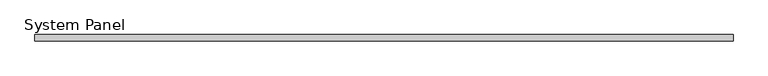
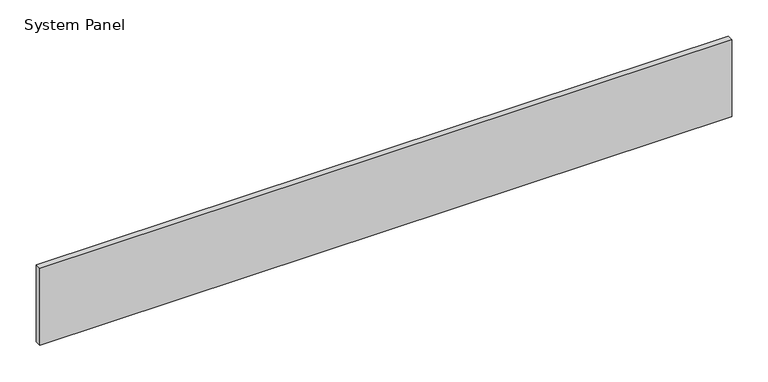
"""IFC4 building model written with IfcOpenShell, lengths in millimetres: plate geometry, System Panel : VACÍO."""

import ifcopenshell
import ifcopenshell.guid

model = None  # the IFC model being written
_history = None  # IfcOwnerHistory: only IFC2X3 demands one
_inside = {}  # id of a spatial element -> (the spatial element, [elements in it])
_under = {}  # id of a project, library or spatial element -> (it, [spatial elements below it])
_declared = {}  # id of a project -> (the project, [libraries it declares])
_typed = {}  # id of a type object -> (the type object, [elements of that type])
_made_of = {}  # id of a material, layer set ... -> (it, [elements and type objects made of it])


def new_model(schema):
    """Start an empty IFC model of exactly this schema.

    Asked for "IFC4X3", IfcOpenShell would pick the latest addendum, in which some entities
    have other attributes; the version numbers below select the first issue.
    IFC2X3 requires an IfcOwnerHistory on every rooted entity: one is made here for all.
    """
    global model, _history
    if schema == "IFC4X3":
        model = ifcopenshell.file(schema_version=(4, 3, 0, 0))
    else:
        model = ifcopenshell.file(schema=schema)
    _inside.clear()
    _under.clear()
    _declared.clear()
    _typed.clear()
    _made_of.clear()
    _history = None
    if model.schema == "IFC2X3":
        org = make("IfcOrganization", Name="unknown")
        user = make(
            "IfcPersonAndOrganization",
            ThePerson=make("IfcPerson", FamilyName="unknown"),
            TheOrganization=org,
        )
        app = make(
            "IfcApplication",
            ApplicationDeveloper=org,
            Version="unknown",
            ApplicationFullName="unknown",
            ApplicationIdentifier="unknown",
        )
        _history = make(
            "IfcOwnerHistory",
            OwningUser=user,
            OwningApplication=app,
            ChangeAction="ADDED",
            CreationDate=0,
        )
    return model


def make(cls, **values):
    """One entity of the class cls with the attributes given. An attribute that is None is left unset."""
    return model.create_entity(
        cls, **{name: value for name, value in values.items() if value is not None}
    )


def rooted(cls, **values):
    """An entity with a GlobalId (a new one), such as an element, a storey or a relation."""
    return make(cls, GlobalId=ifcopenshell.guid.new(), OwnerHistory=_history, **values)


def si_unit(unit_type, name, prefix=None):
    """IfcSIUnit, for example si_unit("LENGTHUNIT", "METRE", prefix="MILLI")."""
    return make("IfcSIUnit", UnitType=unit_type, Prefix=prefix, Name=name)


def assignment(units):
    """IfcUnitAssignment: the units of a project."""
    return None if units is None else make("IfcUnitAssignment", Units=units)


def point(xyz):
    """IfcCartesianPoint."""
    return None if xyz is None else make("IfcCartesianPoint", Coordinates=xyz)


def direction(xyz):
    """IfcDirection."""
    return None if xyz is None else make("IfcDirection", DirectionRatios=xyz)


def frame(location, z_axis=None, x_axis=None):
    """IfcAxis2Placement3D, a coordinate frame: its origin and axes. An axis left out is left unset."""
    return make(
        "IfcAxis2Placement3D",
        Location=point(location),
        Axis=direction(z_axis),
        RefDirection=direction(x_axis),
    )


def origin():
    """The frame at (0, 0, 0) with its axes left unset."""
    return frame((0.0, 0.0, 0.0))


def origin_with_axes():
    """The frame at (0, 0, 0) with the z axis (0, 0, 1) and the x axis (1, 0, 0) written out."""
    return frame((0.0, 0.0, 0.0), z_axis=(0.0, 0.0, 1.0), x_axis=(1.0, 0.0, 0.0))


def place(relative_to, where):
    """IfcLocalPlacement: puts the frame where relative to a parent placement (None: the world)."""
    return make(
        "IfcLocalPlacement", PlacementRelTo=relative_to, RelativePlacement=where
    )


def context(
    kind, dimensions, precision=None, world=None, true_north=None, identifier=None
):
    """IfcGeometricRepresentationContext, for example the 3D "Model" context."""
    return make(
        "IfcGeometricRepresentationContext",
        ContextIdentifier=identifier,
        ContextType=kind,
        CoordinateSpaceDimension=dimensions,
        Precision=precision,
        WorldCoordinateSystem=world,
        TrueNorth=true_north,
    )


def project(units=None, contexts=None):
    """IfcProject with its units and contexts."""
    return rooted(
        "IfcProject",
        Name="project",
        RepresentationContexts=contexts,
        UnitsInContext=assignment(units),
    )


def spatial(cls, under=None, at=None, **own):
    """A site, building, storey or space (cls), placed at a placement, below another one or the project."""
    s = rooted(cls, ObjectPlacement=at, **own)
    if under is not None:
        _under.setdefault(under.id(), (under, []))[1].append(s)
    return s


def polyline(points):
    """IfcPolyline through the points."""
    return make("IfcPolyline", Points=[point(p) for p in points])


def outline(outer, holes=None, kind="AREA"):
    """IfcArbitraryClosedProfileDef: a profile drawn as a closed curve; with holes, ...WithVoids."""
    if holes is None:
        return make("IfcArbitraryClosedProfileDef", ProfileType=kind, OuterCurve=outer)
    return make(
        "IfcArbitraryProfileDefWithVoids",
        ProfileType=kind,
        OuterCurve=outer,
        InnerCurves=holes,
    )


def extrude(swept, where, along, depth):
    """IfcExtrudedAreaSolid: the profile swept, set in the frame where, extruded along a direction by depth."""
    return make(
        "IfcExtrudedAreaSolid",
        SweptArea=swept,
        Position=where,
        ExtrudedDirection=direction(along),
        Depth=depth,
    )


def shape(context_of_items, identifier, shape_type, items):
    """IfcShapeRepresentation: the items that make up one representation, for example the "Body"."""
    return make(
        "IfcShapeRepresentation",
        ContextOfItems=context_of_items,
        RepresentationIdentifier=identifier,
        RepresentationType=shape_type,
        Items=items,
    )


def source(mapping_origin, context_of_items, identifier, shape_type, items):
    """IfcRepresentationMap: a shape defined once, which mapped items show again and again."""
    return make(
        "IfcRepresentationMap",
        MappingOrigin=mapping_origin,
        MappedRepresentation=shape(context_of_items, identifier, shape_type, items),
    )


def transform(
    local_origin,
    x_axis=None,
    y_axis=None,
    z_axis=None,
    scale=None,
    scale2=None,
    scale3=None,
    uniform=True,
):
    """IfcCartesianTransformationOperator3D, or its non-uniform kind. x_axis, y_axis, z_axis: its Axis1, 2, 3."""
    if uniform:
        return make(
            "IfcCartesianTransformationOperator3D",
            Axis1=direction(x_axis),
            Axis2=direction(y_axis),
            LocalOrigin=point(local_origin),
            Scale=scale,
            Axis3=direction(z_axis),
        )
    return make(
        "IfcCartesianTransformationOperator3DnonUniform",
        Axis1=direction(x_axis),
        Axis2=direction(y_axis),
        LocalOrigin=point(local_origin),
        Scale=scale,
        Axis3=direction(z_axis),
        Scale2=scale2,
        Scale3=scale3,
    )


def mapped(mapping_source, mapping_target):
    """IfcMappedItem: shows the shape of a source again, moved by a transform."""
    return make(
        "IfcMappedItem", MappingSource=mapping_source, MappingTarget=mapping_target
    )


def made_of(thing, what):
    """Note that an element or type object is made of a material, layer set ...; save() writes the relation."""
    if what is not None:
        _made_of.setdefault(what.id(), (what, []))[1].append(thing)
    return thing


def element(
    cls,
    number,
    at=None,
    inside=None,
    cuts=None,
    type_object=None,
    material=None,
    context=None,
    identifier="Body",
    shape_type=None,
    held_by="IfcProductDefinitionShape",
    body=None,
    shapes=None,
    **own,
):
    """One element of the class cls, such as IfcWall. Its Tag is "e" and its number.

    at: its placement. inside: the storey or other place that contains it. cuts: it is an
    opening in that element (IfcRelVoidsElement). A single representation is given by context,
    identifier, shape_type and body (its items); several are given by shapes. held_by: the class
    of the entity that holds the representations. save() writes the other relations.
    """
    e = rooted(cls, Tag="e%d" % number, ObjectPlacement=at, **own)
    if body is not None:
        shapes = [shape(context, identifier, shape_type, body)]
    if shapes is not None:
        e.Representation = make(held_by, Representations=shapes)
    if inside is not None:
        _inside.setdefault(inside.id(), (inside, []))[1].append(e)
    if cuts is not None:
        rooted(
            "IfcRelVoidsElement", RelatingBuildingElement=cuts, RelatedOpeningElement=e
        )
    if type_object is not None:
        _typed.setdefault(type_object.id(), (type_object, []))[1].append(e)
    return made_of(e, material)


def aggregate(whole, parts):
    """IfcRelAggregates: a whole, such as a stair, and the parts it consists of."""
    return rooted("IfcRelAggregates", RelatingObject=whole, RelatedObjects=parts)


def save(model, path):
    """Write the relations noted so far, then the file.

    IfcRelAggregates (storeys below a building ...), IfcRelContainedInSpatialStructure (elements
    in a storey), IfcRelDefinesByType, IfcRelAssociatesMaterial and IfcRelDeclares: one each for
    every whole, place, type object, material and project.
    """
    for whole, parts in _under.values():
        aggregate(whole, parts)
    for where, things in _inside.values():
        rooted(
            "IfcRelContainedInSpatialStructure",
            RelatedElements=things,
            RelatingStructure=where,
        )
    for kind, things in _typed.values():
        rooted("IfcRelDefinesByType", RelatedObjects=things, RelatingType=kind)
    for what, things in _made_of.values():
        rooted("IfcRelAssociatesMaterial", RelatedObjects=things, RelatingMaterial=what)
    for by, libraries in _declared.values():
        rooted("IfcRelDeclares", RelatingContext=by, RelatedDefinitions=libraries)
    model.write(path)


def system_panel_03c61958(model_context):
    return source(origin(), model_context, "Body", "SweptSolid", [
        extrude(outline(polyline([(550.3436275, -5.0), (-550.3436275, -5.0), (-550.3436275, 5.0), (550.3436275, 5.0), (550.3436275, -5.0)])), origin_with_axes(), (0.0, 0.0, 1.0), 129.4545455),
    ])


if __name__ == "__main__":
    model = new_model("IFC4")
    model_context = context("Model", 3, world=origin())
    ifc_project = project(units=[si_unit("LENGTHUNIT", "METRE", prefix="MILLI")], contexts=[model_context])
    site = spatial("IfcSite", under=ifc_project)
    building = spatial("IfcBuilding", under=site)
    placement = place(None, origin())
    system_panel_shape = system_panel_03c61958(model_context)
    element("IfcPlate", 1, ObjectType="System Panel : VACÍO", at=placement, inside=building, context=model_context, shape_type="MappedRepresentation", body=[
        mapped(system_panel_shape, transform((0.0, 0.0, 0.0), x_axis=(1.0, 0.0, 0.0), y_axis=(0.0, 1.0, 0.0), z_axis=(0.0, 0.0, 1.0))),
    ])
    save(model, "model.ifc")
